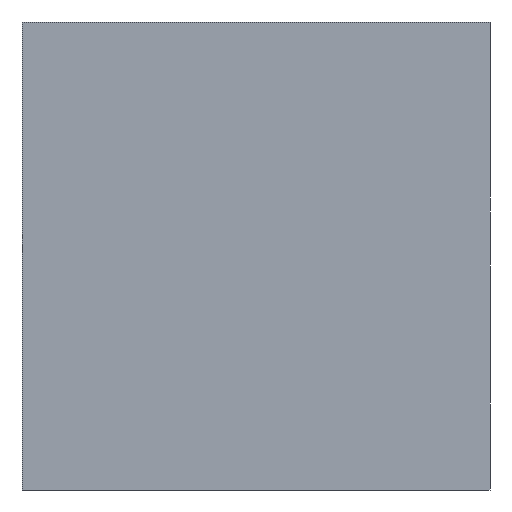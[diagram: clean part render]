
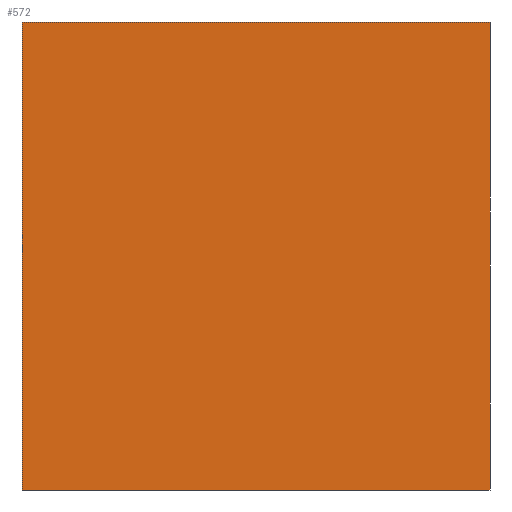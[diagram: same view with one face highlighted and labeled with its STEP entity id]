
A CAD part, front view. The second image highlights one B-rep face of the part: STEP entity #572.
In plain terms, the highlighted planar face has unit normal (0, -1, 0).
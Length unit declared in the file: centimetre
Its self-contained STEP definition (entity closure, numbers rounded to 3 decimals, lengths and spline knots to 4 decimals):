
#27 = LINE ( 'NONE', #571, #696 ) ;
#40 = VERTEX_POINT ( 'NONE', #762 ) ;
#48 = DIRECTION ( 'NONE',  ( 1., 0., 0. ) ) ;
#57 = DIRECTION ( 'NONE',  ( 0., 1., 0. ) ) ;
#124 = EDGE_CURVE ( 'NONE', #560, #695, #870, .T. ) ;
#138 = EDGE_CURVE ( 'NONE', #695, #493, #27, .T. ) ;
#162 = VECTOR ( 'NONE', #48, 100. ) ;
#201 = CARTESIAN_POINT ( 'NONE',  ( 0., 0., 1000. ) ) ;
#256 = AXIS2_PLACEMENT_3D ( 'NONE', #201, #57, #882 ) ;
#261 = FACE_OUTER_BOUND ( 'NONE', #445, .T. ) ;
#299 = CARTESIAN_POINT ( 'NONE',  ( 0., 0., 1000. ) ) ;
#309 = ORIENTED_EDGE ( 'NONE', *, *, #761, .F. ) ;
#391 = LINE ( 'NONE', #682, #162 ) ;
#438 = DIRECTION ( 'NONE',  ( 0., 0., -1. ) ) ;
#445 = EDGE_LOOP ( 'NONE', ( #856, #309, #881, #593 ) ) ;
#493 = VERTEX_POINT ( 'NONE', #826 ) ;
#537 = CARTESIAN_POINT ( 'NONE',  ( 0., 0., 1000. ) ) ;
#546 = EDGE_CURVE ( 'NONE', #560, #40, #391, .T. ) ;
#560 = VERTEX_POINT ( 'NONE', #537 ) ;
#561 = VECTOR ( 'NONE', #438, 100. ) ;
#571 = CARTESIAN_POINT ( 'NONE',  ( 0., 0., 0. ) ) ;
#572 = ADVANCED_FACE ( 'NONE', ( #261 ), #600, .F. ) ;
#593 = ORIENTED_EDGE ( 'NONE', *, *, #124, .T. ) ;
#600 = PLANE ( 'NONE',  #256 ) ;
#667 = DIRECTION ( 'NONE',  ( 0., 0., -1. ) ) ;
#674 = LINE ( 'NONE', #883, #861 ) ;
#682 = CARTESIAN_POINT ( 'NONE',  ( 0., 0., 1000. ) ) ;
#695 = VERTEX_POINT ( 'NONE', #831 ) ;
#696 = VECTOR ( 'NONE', #853, 100. ) ;
#761 = EDGE_CURVE ( 'NONE', #40, #493, #674, .T. ) ;
#762 = CARTESIAN_POINT ( 'NONE',  ( 1000., 0., 1000. ) ) ;
#826 = CARTESIAN_POINT ( 'NONE',  ( 1000., 0., 0. ) ) ;
#831 = CARTESIAN_POINT ( 'NONE',  ( 0., 0., 0. ) ) ;
#853 = DIRECTION ( 'NONE',  ( 1., 0., 0. ) ) ;
#856 = ORIENTED_EDGE ( 'NONE', *, *, #138, .T. ) ;
#861 = VECTOR ( 'NONE', #667, 100. ) ;
#870 = LINE ( 'NONE', #299, #561 ) ;
#881 = ORIENTED_EDGE ( 'NONE', *, *, #546, .F. ) ;
#882 = DIRECTION ( 'NONE',  ( 0., 0., 1. ) ) ;
#883 = CARTESIAN_POINT ( 'NONE',  ( 1000., 0., 1000. ) ) ;
